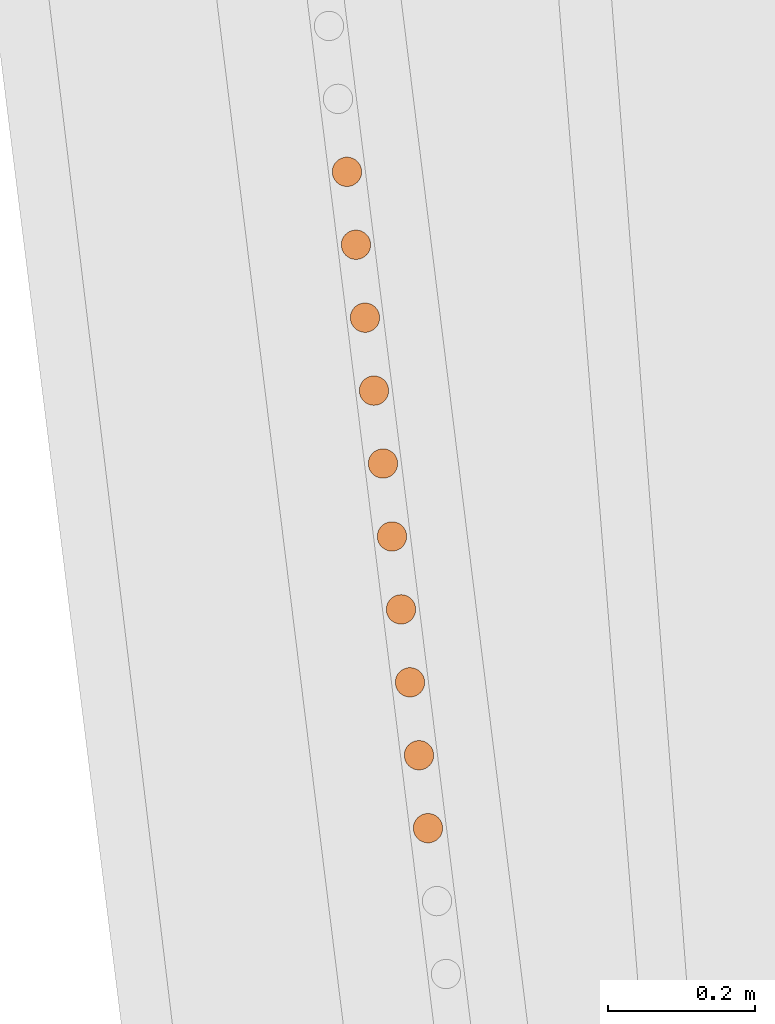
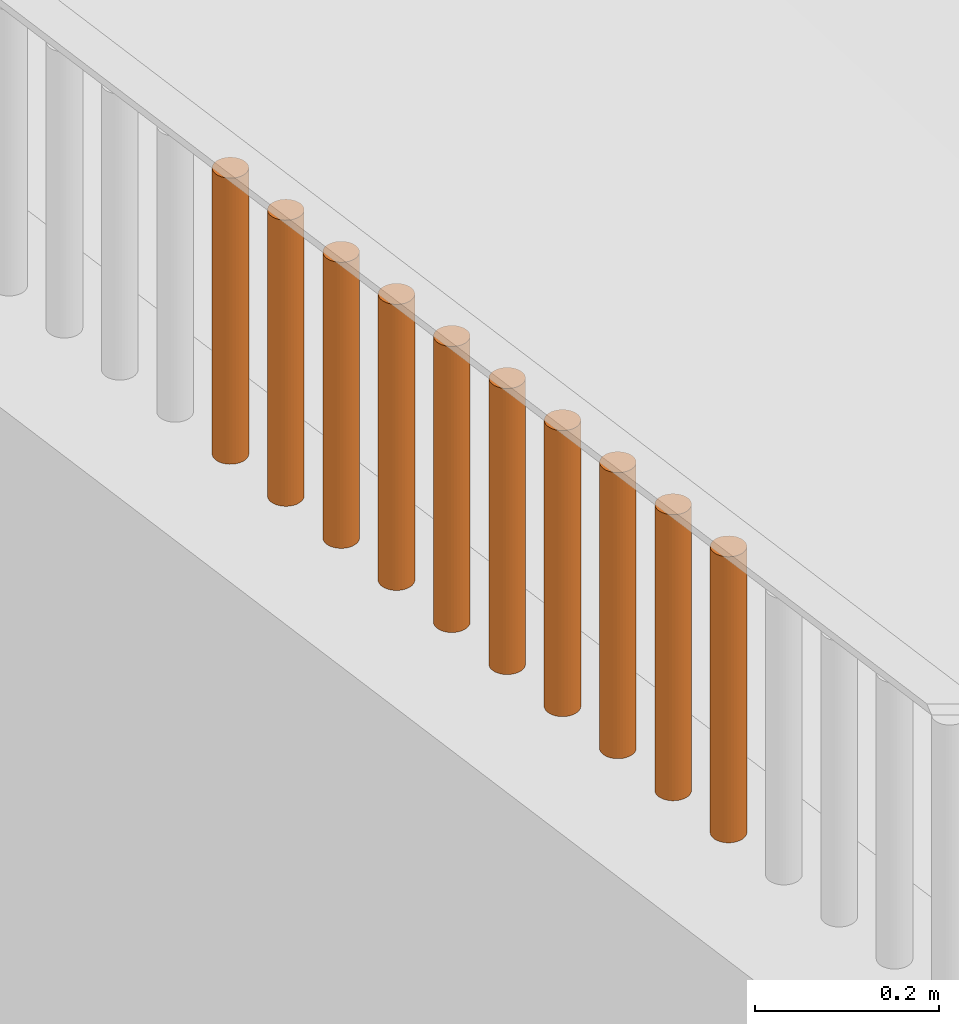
# One storey, part 115 of 1809: 10 proxies, 1 element without a shape of its own.
"""IFC2X3 building model written with IfcOpenShell, lengths in millimetres."""

from ifc_helpers import new_model, entity, si_unit, converted_unit, derived_unit, money_unit, direction, frame, origin_with_axes, place, context, subcontext, project, spatial, faceted_brep, source, transform, mapped, material, type_object, element, aggregate, save


model = new_model("IFC2X3")

# Units and contexts
model_context = context("Model", 3, precision=0.01, world=origin_with_axes(), true_north=direction((0.0, 1.0)))
body_context = subcontext(model_context, "Body", "Model", "MODEL_VIEW")
ifc_project = project(units=[si_unit("LENGTHUNIT", "METRE", prefix="MILLI"), si_unit("AREAUNIT", "SQUARE_METRE"), si_unit("VOLUMEUNIT", "CUBIC_METRE"), converted_unit("PLANEANGLEUNIT", "DEGREE", entity("IfcPlaneAngleMeasure", 0.0174532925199), si_unit("PLANEANGLEUNIT", "RADIAN"), dimensions=[0, 0, 0, 0, 0, 0, 0]), si_unit("SOLIDANGLEUNIT", "STERADIAN"), money_unit("EUR"), converted_unit("TIMEUNIT", "Year", entity("IfcTimeMeasure", 31556926.0), si_unit("TIMEUNIT", "SECOND"), dimensions=[0, 0, 1, 0, 0, 0, 0]), si_unit("MASSUNIT", "GRAM", prefix="KILO"), si_unit("THERMODYNAMICTEMPERATUREUNIT", "DEGREE_CELSIUS"), si_unit("LUMINOUSINTENSITYUNIT", "LUMEN"), si_unit("ENERGYUNIT", "JOULE", prefix="MEGA"), derived_unit("THERMALCONDUCTANCEUNIT", [(si_unit("POWERUNIT", "WATT"), 1), (si_unit("LENGTHUNIT", "METRE"), -1), (si_unit("THERMODYNAMICTEMPERATUREUNIT", "KELVIN"), -1)]), derived_unit("SPECIFICHEATCAPACITYUNIT", [(si_unit("ENERGYUNIT", "JOULE"), 1), (si_unit("MASSUNIT", "GRAM", prefix="KILO"), -1), (si_unit("THERMODYNAMICTEMPERATUREUNIT", "KELVIN"), -1)]), derived_unit("MASSDENSITYUNIT", [(si_unit("MASSUNIT", "GRAM", prefix="KILO"), 1), (si_unit("VOLUMEUNIT", "CUBIC_METRE"), -1)])], contexts=[model_context])

# Site, building, storey
site_placement = place(None, origin_with_axes())
site = spatial("IfcSite", under=ifc_project, at=site_placement, Name="Politse- ja Piirivalveameti ning Päästeameti ühishoone", CompositionType="ELEMENT")
building_placement = place(site_placement, origin_with_axes())
building = spatial("IfcBuilding", under=site, at=building_placement, Name="Politse- ja Piirivalveameti ning Päästeameti ühishoone", CompositionType="ELEMENT")
storey_placement = place(building_placement, origin_with_axes())
storey = spatial("IfcBuildingStorey", under=building, at=storey_placement, Name="Esimene korrus", CompositionType="ELEMENT", Elevation=0.0)

# Proxies
building_element_proxy_type_1 = type_object("IfcBuildingElementProxyType", Name="Railing Type", PredefinedType="NOTDEFINED")
proxy_1_placement = place(storey_placement, frame((-18956.5522504, -53688.4757966, 2100.0), z_axis=(0.0, 0.0, 1.0), x_axis=(1.0, 0.0, 0.0)))
proxy_1 = element("IfcBuildingElementProxy", 1, at=proxy_1_placement, inside=storey, type_object=building_element_proxy_type_1, Name="PIIRDEAED")
ifc_material = material(Name="ET-06_Teras - Konstruktsioon")
building_element_proxy_type_2 = type_object("IfcBuildingElementProxyType", Name="IfcBuildingElementProxy", PredefinedType="NOTDEFINED")
shared_shape_1 = source(origin_with_axes(), body_context, "Body", "Brep", [
    faceted_brep([(0.0, -20.0, 0.0), (3.47296355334, -19.6961550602, 0.0), (3.47296355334, -19.6961550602, 380.000012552), (0.0, -20.0, 380.000012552), (-3.47296355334, -19.6961550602, 0.0), (-6.84040286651, -18.7938524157, 0.0), (-10.0, -17.3205080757, 0.0), (-12.8557521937, -15.3208888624, 0.0), (-15.3208888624, -12.8557521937, 0.0), (-17.3205080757, -10.0, 0.0), (-18.7938524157, -6.84040286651, 0.0), (-19.6961550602, -3.47296355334, 0.0), (-20.0, 0.0, 0.0), (-19.6961550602, 3.47296355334, 0.0), (-18.7938524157, 6.84040286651, 0.0), (-17.3205080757, 10.0, 0.0), (-15.3208888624, 12.8557521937, 0.0), (-12.8557521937, 15.3208888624, 0.0), (-10.0, 17.3205080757, 0.0), (-6.84040286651, 18.7938524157, 0.0), (-3.47296355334, 19.6961550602, 0.0), (0.0, 20.0, 0.0), (3.47296355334, 19.6961550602, 0.0), (6.84040286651, 18.7938524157, 0.0), (10.0, 17.3205080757, 0.0), (12.8557521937, 15.3208888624, 0.0), (15.3208888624, 12.8557521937, 0.0), (17.3205080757, 10.0, 0.0), (18.7938524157, 6.84040286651, 0.0), (19.6961550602, 3.47296355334, 0.0), (20.0, 0.0, 0.0), (19.6961550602, -3.47296355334, 0.0), (18.7938524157, -6.84040286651, 0.0), (17.3205080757, -10.0, 0.0), (15.3208888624, -12.8557521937, 0.0), (12.8557521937, -15.3208888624, 0.0), (10.0, -17.3205080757, 0.0), (6.84040286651, -18.7938524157, 0.0), (6.84040286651, -18.7938524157, 380.000012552), (10.0, -17.3205080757, 380.000012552), (12.8557521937, -15.3208888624, 380.000012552), (15.3208888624, -12.8557521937, 380.000012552), (17.3205080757, -10.0, 380.000012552), (18.7938524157, -6.84040286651, 380.000012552), (19.6961550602, -3.47296355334, 380.000012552), (20.0, 0.0, 380.000012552), (19.6961550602, 3.47296355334, 380.000012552), (18.7938524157, 6.84040286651, 380.000012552), (17.3205080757, 10.0, 380.000012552), (15.3208888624, 12.8557521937, 380.000012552), (12.8557521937, 15.3208888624, 380.000012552), (10.0, 17.3205080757, 380.000012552), (6.84040286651, 18.7938524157, 380.000012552), (3.47296355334, 19.6961550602, 380.000012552), (0.0, 20.0, 380.000012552), (-3.47296355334, 19.6961550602, 380.000012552), (-6.84040286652, 18.7938524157, 380.000012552), (-10.0, 17.3205080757, 380.000012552), (-12.8557521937, 15.3208888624, 380.000012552), (-15.3208888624, 12.8557521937, 380.000012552), (-17.3205080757, 10.0, 380.000012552), (-18.7938524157, 6.84040286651, 380.000012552), (-19.6961550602, 3.47296355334, 380.000012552), (-20.0, 0.0, 380.000012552), (-19.6961550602, -3.47296355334, 380.000012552), (-18.7938524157, -6.84040286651, 380.000012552), (-17.3205080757, -10.0, 380.000012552), (-15.3208888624, -12.8557521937, 380.000012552), (-12.8557521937, -15.3208888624, 380.000012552), (-10.0, -17.3205080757, 380.000012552), (-6.84040286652, -18.7938524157, 380.000012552), (-3.47296355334, -19.6961550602, 380.000012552)], [[[0, 1, 2, 3]], [[0, 4, 5, 6, 7, 8, 9, 10, 11, 12, 13, 14, 15, 16, 17, 18, 19, 20, 21, 22, 23, 24, 25, 26, 27, 28, 29, 30, 31, 32, 33, 34, 35, 36, 37, 1]], [[1, 37, 38, 2]], [[3, 2, 38, 39, 40, 41, 42, 43, 44, 45, 46, 47, 48, 49, 50, 51, 52, 53, 54, 55, 56, 57, 58, 59, 60, 61, 62, 63, 64, 65, 66, 67, 68, 69, 70, 71]], [[4, 0, 3, 71]], [[5, 4, 71, 70]], [[6, 5, 70, 69]], [[7, 6, 69, 68]], [[8, 7, 68, 67]], [[9, 8, 67, 66]], [[10, 9, 66, 65]], [[11, 10, 65, 64]], [[12, 11, 64, 63]], [[13, 12, 63, 62]], [[14, 13, 62, 61]], [[15, 14, 61, 60]], [[16, 15, 60, 59]], [[17, 16, 59, 58]], [[18, 17, 58, 57]], [[19, 18, 57, 56]], [[20, 19, 56, 55]], [[21, 20, 55, 54]], [[22, 21, 54, 53]], [[23, 22, 53, 52]], [[24, 23, 52, 51]], [[25, 24, 51, 50]], [[26, 25, 50, 49]], [[27, 26, 49, 48]], [[28, 27, 48, 47]], [[29, 28, 47, 46]], [[30, 29, 46, 45]], [[31, 30, 45, 44]], [[32, 31, 44, 43]], [[33, 32, 43, 42]], [[34, 33, 42, 41]], [[35, 34, 41, 40]], [[36, 35, 40, 39]], [[37, 36, 39, 38]]]),
])
proxy_2_placement = place(proxy_1_placement, frame((-2089.39874357, 16093.2870675, -1.25517001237e-05), z_axis=(0.0, 0.0, 1.0), x_axis=(1.0, 0.0, 0.0)))
proxy_2 = element("IfcBuildingElementProxy", 2, at=proxy_2_placement, type_object=building_element_proxy_type_2, material=ifc_material, Name="BALUSTER - 001", context=body_context, shape_type="MappedRepresentation", body=[
    mapped(shared_shape_1, transform((0.0, 0.0, 0.0), x_axis=(0.992468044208, 0.122503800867, 0.0), y_axis=(-0.122503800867, 0.992468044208, 0.0), z_axis=(0.0, 0.0, 1.0))),
])
proxy_3_placement = place(proxy_1_placement, frame((-2126.14185831, 16390.9624617, -1.25517001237e-05), z_axis=(0.0, 0.0, 1.0), x_axis=(1.0, 0.0, 0.0)))
proxy_3 = element("IfcBuildingElementProxy", 3, at=proxy_3_placement, type_object=building_element_proxy_type_2, material=ifc_material, Name="BALUSTER - 001", context=body_context, shape_type="MappedRepresentation", body=[
    mapped(shared_shape_1, transform((0.0, 0.0, 0.0), x_axis=(0.992468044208, 0.122503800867, 0.0), y_axis=(-0.122503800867, 0.992468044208, 0.0), z_axis=(0.0, 0.0, 1.0))),
])
proxy_4_placement = place(proxy_1_placement, frame((-2150.63726813, 16589.4127246, -1.25517001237e-05), z_axis=(0.0, 0.0, 1.0), x_axis=(1.0, 0.0, 0.0)))
proxy_4 = element("IfcBuildingElementProxy", 4, at=proxy_4_placement, type_object=building_element_proxy_type_2, material=ifc_material, Name="BALUSTER - 001", context=body_context, shape_type="MappedRepresentation", body=[
    mapped(shared_shape_1, transform((0.0, 0.0, 0.0), x_axis=(0.992468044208, 0.122503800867, 0.0), y_axis=(-0.122503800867, 0.992468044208, 0.0), z_axis=(0.0, 0.0, 1.0))),
])
shared_shape_2 = source(origin_with_axes(), body_context, "Body", "Brep", [
    faceted_brep([(0.0, -20.0, 0.0), (3.47296355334, -19.6961550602, 0.0), (3.47296355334, -19.6961550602, 380.000012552), (0.0, -20.0, 380.000012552), (-3.47296355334, -19.6961550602, 0.0), (-6.84040286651, -18.7938524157, 0.0), (-10.0, -17.3205080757, 0.0), (-12.8557521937, -15.3208888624, 0.0), (-15.3208888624, -12.8557521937, 0.0), (-17.3205080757, -10.0, 0.0), (-18.7938524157, -6.84040286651, 0.0), (-19.6961550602, -3.47296355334, 0.0), (-20.0, 0.0, 0.0), (-19.6961550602, 3.47296355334, 0.0), (-18.7938524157, 6.84040286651, 0.0), (-17.3205080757, 10.0, 0.0), (-15.3208888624, 12.8557521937, 0.0), (-12.8557521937, 15.3208888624, 0.0), (-10.0, 17.3205080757, 0.0), (-6.84040286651, 18.7938524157, 0.0), (-3.47296355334, 19.6961550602, 0.0), (0.0, 20.0, 0.0), (3.47296355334, 19.6961550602, 0.0), (6.84040286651, 18.7938524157, 0.0), (10.0, 17.3205080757, 0.0), (12.8557521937, 15.3208888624, 0.0), (15.3208888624, 12.8557521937, 0.0), (17.3205080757, 10.0, 0.0), (18.7938524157, 6.84040286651, 0.0), (19.6961550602, 3.47296355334, 0.0), (20.0, 0.0, 0.0), (19.6961550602, -3.47296355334, 0.0), (18.7938524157, -6.84040286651, 0.0), (17.3205080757, -10.0, 0.0), (15.3208888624, -12.8557521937, 0.0), (12.8557521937, -15.3208888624, 0.0), (10.0, -17.3205080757, 0.0), (6.84040286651, -18.7938524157, 0.0), (6.84040286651, -18.7938524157, 380.000012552), (10.0, -17.3205080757, 380.000012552), (12.8557521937, -15.3208888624, 380.000012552), (15.3208888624, -12.8557521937, 380.000012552), (17.3205080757, -10.0, 380.000012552), (18.7938524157, -6.84040286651, 380.000012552), (19.6961550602, -3.47296355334, 380.000012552), (20.0, 0.0, 380.000012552), (19.6961550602, 3.47296355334, 380.000012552), (18.7938524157, 6.84040286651, 380.000012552), (17.3205080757, 10.0, 380.000012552), (15.3208888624, 12.8557521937, 380.000012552), (12.8557521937, 15.3208888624, 380.000012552), (10.0, 17.3205080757, 380.000012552), (6.84040286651, 18.7938524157, 380.000012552), (3.47296355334, 19.6961550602, 380.000012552), (0.0, 20.0, 380.000012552), (-3.47296355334, 19.6961550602, 380.000012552), (-6.84040286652, 18.7938524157, 380.000012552), (-10.0, 17.3205080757, 380.000012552), (-12.8557521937, 15.3208888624, 380.000012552), (-15.3208888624, 12.8557521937, 380.000012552), (-17.3205080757, 10.0, 380.000012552), (-18.7938524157, 6.84040286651, 380.000012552), (-19.6961550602, 3.47296355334, 380.000012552), (-20.0, 0.0, 380.000012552), (-19.6961550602, -3.47296355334, 380.000012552), (-18.7938524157, -6.84040286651, 380.000012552), (-17.3205080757, -10.0, 380.000012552), (-15.3208888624, -12.8557521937, 380.000012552), (-12.8557521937, -15.3208888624, 380.000012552), (-10.0, -17.3205080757, 380.000012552), (-6.84040286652, -18.7938524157, 380.000012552), (-3.47296355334, -19.6961550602, 380.000012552)], [[[0, 1, 2, 3]], [[0, 4, 5, 6, 7, 8, 9, 10, 11, 12, 13, 14, 15, 16, 17, 18, 19, 20, 21, 22, 23, 24, 25, 26, 27, 28, 29, 30, 31, 32, 33, 34, 35, 36, 37, 1]], [[1, 37, 38, 2]], [[3, 2, 38, 39, 40, 41, 42, 43, 44, 45, 46, 47, 48, 49, 50, 51, 52, 53, 54, 55, 56, 57, 58, 59, 60, 61, 62, 63, 64, 65, 66, 67, 68, 69, 70, 71]], [[4, 0, 3, 71]], [[5, 4, 71, 70]], [[6, 5, 70, 69]], [[7, 6, 69, 68]], [[8, 7, 68, 67]], [[9, 8, 67, 66]], [[10, 9, 66, 65]], [[11, 10, 65, 64]], [[12, 11, 64, 63]], [[13, 12, 63, 62]], [[14, 13, 62, 61]], [[15, 14, 61, 60]], [[16, 15, 60, 59]], [[17, 16, 59, 58]], [[18, 17, 58, 57]], [[19, 18, 57, 56]], [[20, 19, 56, 55]], [[21, 20, 55, 54]], [[22, 21, 54, 53]], [[23, 22, 53, 52]], [[24, 23, 52, 51]], [[25, 24, 51, 50]], [[26, 25, 50, 49]], [[27, 26, 49, 48]], [[28, 27, 48, 47]], [[29, 28, 47, 46]], [[30, 29, 46, 45]], [[31, 30, 45, 44]], [[32, 31, 44, 43]], [[33, 32, 43, 42]], [[34, 33, 42, 41]], [[35, 34, 41, 40]], [[36, 35, 40, 39]], [[37, 36, 39, 38]]]),
])
proxy_5_placement = place(proxy_1_placement, frame((-2077.15103866, 15994.061936, -1.25517001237e-05), z_axis=(0.0, 0.0, 1.0), x_axis=(1.0, 0.0, 0.0)))
proxy_5 = element("IfcBuildingElementProxy", 5, at=proxy_5_placement, type_object=building_element_proxy_type_2, material=ifc_material, Name="BALUSTER - 001", context=body_context, shape_type="MappedRepresentation", body=[
    mapped(shared_shape_2, transform((0.0, 0.0, 0.0), x_axis=(0.992468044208, 0.122503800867, 0.0), y_axis=(-0.122503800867, 0.992468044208, 0.0), z_axis=(0.0, 0.0, 1.0))),
])
proxy_6_placement = place(proxy_1_placement, frame((-2138.38956322, 16490.1875932, -1.25517001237e-05), z_axis=(0.0, 0.0, 1.0), x_axis=(1.0, 0.0, 0.0)))
proxy_6 = element("IfcBuildingElementProxy", 6, at=proxy_6_placement, type_object=building_element_proxy_type_2, material=ifc_material, Name="BALUSTER - 001", context=body_context, shape_type="MappedRepresentation", body=[
    mapped(shared_shape_2, transform((0.0, 0.0, 0.0), x_axis=(0.992468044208, 0.122503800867, 0.0), y_axis=(-0.122503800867, 0.992468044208, 0.0), z_axis=(0.0, 0.0, 1.0))),
])
proxy_7_placement = place(proxy_1_placement, frame((-2175.13267796, 16787.8629874, -1.25517001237e-05), z_axis=(0.0, 0.0, 1.0), x_axis=(1.0, 0.0, 0.0)))
proxy_7 = element("IfcBuildingElementProxy", 7, at=proxy_7_placement, type_object=building_element_proxy_type_2, material=ifc_material, Name="BALUSTER - 001", context=body_context, shape_type="MappedRepresentation", body=[
    mapped(shared_shape_2, transform((0.0, 0.0, 0.0), x_axis=(0.992468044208, 0.122503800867, 0.0), y_axis=(-0.122503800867, 0.992468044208, 0.0), z_axis=(0.0, 0.0, 1.0))),
])
shared_shape_3 = source(origin_with_axes(), body_context, "Body", "Brep", [
    faceted_brep([(0.0, -20.0, 0.0), (3.47296355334, -19.6961550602, 0.0), (3.47296355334, -19.6961550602, 380.000012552), (0.0, -20.0, 380.000012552), (-3.47296355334, -19.6961550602, 0.0), (-6.84040286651, -18.7938524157, 0.0), (-10.0, -17.3205080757, 0.0), (-12.8557521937, -15.3208888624, 0.0), (-15.3208888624, -12.8557521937, 0.0), (-17.3205080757, -10.0, 0.0), (-18.7938524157, -6.84040286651, 0.0), (-19.6961550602, -3.47296355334, 0.0), (-20.0, 0.0, 0.0), (-19.6961550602, 3.47296355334, 0.0), (-18.7938524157, 6.84040286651, 0.0), (-17.3205080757, 10.0, 0.0), (-15.3208888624, 12.8557521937, 0.0), (-12.8557521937, 15.3208888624, 0.0), (-10.0, 17.3205080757, 0.0), (-6.84040286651, 18.7938524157, 0.0), (-3.47296355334, 19.6961550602, 0.0), (0.0, 20.0, 0.0), (3.47296355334, 19.6961550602, 0.0), (6.84040286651, 18.7938524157, 0.0), (10.0, 17.3205080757, 0.0), (12.8557521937, 15.3208888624, 0.0), (15.3208888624, 12.8557521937, 0.0), (17.3205080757, 10.0, 0.0), (18.7938524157, 6.84040286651, 0.0), (19.6961550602, 3.47296355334, 0.0), (20.0, 0.0, 0.0), (19.6961550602, -3.47296355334, 0.0), (18.7938524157, -6.84040286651, 0.0), (17.3205080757, -10.0, 0.0), (15.3208888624, -12.8557521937, 0.0), (12.8557521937, -15.3208888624, 0.0), (10.0, -17.3205080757, 0.0), (6.84040286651, -18.7938524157, 0.0), (6.84040286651, -18.7938524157, 380.000012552), (10.0, -17.3205080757, 380.000012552), (12.8557521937, -15.3208888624, 380.000012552), (15.3208888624, -12.8557521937, 380.000012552), (17.3205080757, -9.99999999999, 380.000012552), (18.7938524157, -6.84040286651, 380.000012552), (19.6961550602, -3.47296355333, 380.000012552), (20.0, 0.0, 380.000012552), (19.6961550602, 3.47296355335, 380.000012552), (18.7938524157, 6.84040286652, 380.000012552), (17.3205080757, 10.0, 380.000012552), (15.3208888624, 12.8557521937, 380.000012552), (12.8557521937, 15.3208888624, 380.000012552), (10.0, 17.3205080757, 380.000012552), (6.84040286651, 18.7938524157, 380.000012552), (3.47296355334, 19.6961550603, 380.000012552), (0.0, 20.0, 380.000012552), (-3.47296355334, 19.6961550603, 380.000012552), (-6.84040286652, 18.7938524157, 380.000012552), (-10.0, 17.3205080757, 380.000012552), (-12.8557521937, 15.3208888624, 380.000012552), (-15.3208888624, 12.8557521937, 380.000012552), (-17.3205080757, 10.0, 380.000012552), (-18.7938524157, 6.84040286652, 380.000012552), (-19.6961550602, 3.47296355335, 380.000012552), (-20.0, 0.0, 380.000012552), (-19.6961550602, -3.47296355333, 380.000012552), (-18.7938524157, -6.84040286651, 380.000012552), (-17.3205080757, -9.99999999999, 380.000012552), (-15.3208888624, -12.8557521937, 380.000012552), (-12.8557521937, -15.3208888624, 380.000012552), (-10.0, -17.3205080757, 380.000012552), (-6.84040286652, -18.7938524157, 380.000012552), (-3.47296355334, -19.6961550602, 380.000012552)], [[[0, 1, 2, 3]], [[0, 4, 5, 6, 7, 8, 9, 10, 11, 12, 13, 14, 15, 16, 17, 18, 19, 20, 21, 22, 23, 24, 25, 26, 27, 28, 29, 30, 31, 32, 33, 34, 35, 36, 37, 1]], [[1, 37, 38, 2]], [[3, 2, 38, 39, 40, 41, 42, 43, 44, 45, 46, 47, 48, 49, 50, 51, 52, 53, 54, 55, 56, 57, 58, 59, 60, 61, 62, 63, 64, 65, 66, 67, 68, 69, 70, 71]], [[4, 0, 3, 71]], [[5, 4, 71, 70]], [[6, 5, 70, 69]], [[7, 6, 69, 68]], [[8, 7, 68, 67]], [[9, 8, 67, 66]], [[10, 9, 66, 65]], [[11, 10, 65, 64]], [[12, 11, 64, 63]], [[13, 12, 63, 62]], [[14, 13, 62, 61]], [[15, 14, 61, 60]], [[16, 15, 60, 59]], [[17, 16, 59, 58]], [[18, 17, 58, 57]], [[19, 18, 57, 56]], [[20, 19, 56, 55]], [[21, 20, 55, 54]], [[22, 21, 54, 53]], [[23, 22, 53, 52]], [[24, 23, 52, 51]], [[25, 24, 51, 50]], [[26, 25, 50, 49]], [[27, 26, 49, 48]], [[28, 27, 48, 47]], [[29, 28, 47, 46]], [[30, 29, 46, 45]], [[31, 30, 45, 44]], [[32, 31, 44, 43]], [[33, 32, 43, 42]], [[34, 33, 42, 41]], [[35, 34, 41, 40]], [[36, 35, 40, 39]], [[37, 36, 39, 38]]]),
])
proxy_8_placement = place(proxy_1_placement, frame((-2113.8941534, 16291.7373303, -1.25517001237e-05), z_axis=(0.0, 0.0, 1.0), x_axis=(1.0, 0.0, 0.0)))
proxy_8 = element("IfcBuildingElementProxy", 8, at=proxy_8_placement, type_object=building_element_proxy_type_2, material=ifc_material, Name="BALUSTER - 001", context=body_context, shape_type="MappedRepresentation", body=[
    mapped(shared_shape_3, transform((0.0, 0.0, 0.0), x_axis=(0.992468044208, 0.122503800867, 0.0), y_axis=(-0.122503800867, 0.992468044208, 0.0), z_axis=(0.0, 0.0, 1.0))),
])
shared_shape_4 = source(origin_with_axes(), body_context, "Body", "Brep", [
    faceted_brep([(0.0, -20.0, 0.0), (3.47296355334, -19.6961550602, 0.0), (3.47296355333, -19.6961550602, 380.000012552), (0.0, -20.0, 380.000012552), (-3.47296355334, -19.6961550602, 0.0), (-6.84040286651, -18.7938524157, 0.0), (-10.0, -17.3205080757, 0.0), (-12.8557521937, -15.3208888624, 0.0), (-15.3208888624, -12.8557521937, 0.0), (-17.3205080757, -10.0, 0.0), (-18.7938524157, -6.84040286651, 0.0), (-19.6961550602, -3.47296355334, 0.0), (-20.0, 0.0, 0.0), (-19.6961550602, 3.47296355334, 0.0), (-18.7938524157, 6.84040286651, 0.0), (-17.3205080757, 10.0, 0.0), (-15.3208888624, 12.8557521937, 0.0), (-12.8557521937, 15.3208888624, 0.0), (-10.0, 17.3205080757, 0.0), (-6.84040286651, 18.7938524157, 0.0), (-3.47296355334, 19.6961550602, 0.0), (0.0, 20.0, 0.0), (3.47296355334, 19.6961550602, 0.0), (6.84040286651, 18.7938524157, 0.0), (10.0, 17.3205080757, 0.0), (12.8557521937, 15.3208888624, 0.0), (15.3208888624, 12.8557521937, 0.0), (17.3205080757, 10.0, 0.0), (18.7938524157, 6.84040286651, 0.0), (19.6961550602, 3.47296355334, 0.0), (20.0, 0.0, 0.0), (19.6961550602, -3.47296355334, 0.0), (18.7938524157, -6.84040286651, 0.0), (17.3205080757, -10.0, 0.0), (15.3208888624, -12.8557521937, 0.0), (12.8557521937, -15.3208888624, 0.0), (10.0, -17.3205080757, 0.0), (6.84040286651, -18.7938524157, 0.0), (6.84040286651, -18.7938524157, 380.000012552), (9.99999999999, -17.3205080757, 380.000012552), (12.8557521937, -15.3208888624, 380.000012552), (15.3208888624, -12.8557521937, 380.000012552), (17.3205080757, -10.0, 380.000012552), (18.7938524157, -6.84040286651, 380.000012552), (19.6961550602, -3.47296355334, 380.000012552), (20.0, 0.0, 380.000012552), (19.6961550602, 3.47296355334, 380.000012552), (18.7938524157, 6.84040286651, 380.000012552), (17.3205080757, 10.0, 380.000012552), (15.3208888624, 12.8557521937, 380.000012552), (12.8557521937, 15.3208888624, 380.000012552), (9.99999999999, 17.3205080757, 380.000012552), (6.84040286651, 18.7938524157, 380.000012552), (3.47296355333, 19.6961550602, 380.000012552), (0.0, 20.0, 380.000012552), (-3.47296355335, 19.6961550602, 380.000012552), (-6.84040286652, 18.7938524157, 380.000012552), (-10.0, 17.3205080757, 380.000012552), (-12.8557521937, 15.3208888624, 380.000012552), (-15.3208888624, 12.8557521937, 380.000012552), (-17.3205080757, 10.0, 380.000012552), (-18.7938524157, 6.84040286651, 380.000012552), (-19.6961550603, 3.47296355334, 380.000012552), (-20.0, 0.0, 380.000012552), (-19.6961550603, -3.47296355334, 380.000012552), (-18.7938524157, -6.84040286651, 380.000012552), (-17.3205080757, -10.0, 380.000012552), (-15.3208888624, -12.8557521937, 380.000012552), (-12.8557521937, -15.3208888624, 380.000012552), (-10.0, -17.3205080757, 380.000012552), (-6.84040286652, -18.7938524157, 380.000012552), (-3.47296355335, -19.6961550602, 380.000012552)], [[[0, 1, 2, 3]], [[0, 4, 5, 6, 7, 8, 9, 10, 11, 12, 13, 14, 15, 16, 17, 18, 19, 20, 21, 22, 23, 24, 25, 26, 27, 28, 29, 30, 31, 32, 33, 34, 35, 36, 37, 1]], [[1, 37, 38, 2]], [[3, 2, 38, 39, 40, 41, 42, 43, 44, 45, 46, 47, 48, 49, 50, 51, 52, 53, 54, 55, 56, 57, 58, 59, 60, 61, 62, 63, 64, 65, 66, 67, 68, 69, 70, 71]], [[4, 0, 3, 71]], [[5, 4, 71, 70]], [[6, 5, 70, 69]], [[7, 6, 69, 68]], [[8, 7, 68, 67]], [[9, 8, 67, 66]], [[10, 9, 66, 65]], [[11, 10, 65, 64]], [[12, 11, 64, 63]], [[13, 12, 63, 62]], [[14, 13, 62, 61]], [[15, 14, 61, 60]], [[16, 15, 60, 59]], [[17, 16, 59, 58]], [[18, 17, 58, 57]], [[19, 18, 57, 56]], [[20, 19, 56, 55]], [[21, 20, 55, 54]], [[22, 21, 54, 53]], [[23, 22, 53, 52]], [[24, 23, 52, 51]], [[25, 24, 51, 50]], [[26, 25, 50, 49]], [[27, 26, 49, 48]], [[28, 27, 48, 47]], [[29, 28, 47, 46]], [[30, 29, 46, 45]], [[31, 30, 45, 44]], [[32, 31, 44, 43]], [[33, 32, 43, 42]], [[34, 33, 42, 41]], [[35, 34, 41, 40]], [[36, 35, 40, 39]], [[37, 36, 39, 38]]]),
])
proxy_9_placement = place(proxy_1_placement, frame((-2064.90333374, 15894.8368046, -1.25517001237e-05), z_axis=(0.0, 0.0, 1.0), x_axis=(1.0, 0.0, 0.0)))
proxy_9 = element("IfcBuildingElementProxy", 9, at=proxy_9_placement, type_object=building_element_proxy_type_2, material=ifc_material, Name="BALUSTER - 001", context=body_context, shape_type="MappedRepresentation", body=[
    mapped(shared_shape_4, transform((0.0, 0.0, 0.0), x_axis=(0.992468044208, 0.122503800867, 0.0), y_axis=(-0.122503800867, 0.992468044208, 0.0), z_axis=(0.0, 0.0, 1.0))),
])
shared_shape_5 = source(origin_with_axes(), body_context, "Body", "Brep", [
    faceted_brep([(0.0, -20.0, 0.0), (3.47296355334, -19.6961550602, 0.0), (3.47296355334, -19.6961550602, 380.000012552), (0.0, -20.0, 380.000012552), (-3.47296355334, -19.6961550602, 0.0), (-6.84040286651, -18.7938524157, 0.0), (-10.0, -17.3205080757, 0.0), (-12.8557521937, -15.3208888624, 0.0), (-15.3208888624, -12.8557521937, 0.0), (-17.3205080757, -10.0, 0.0), (-18.7938524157, -6.84040286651, 0.0), (-19.6961550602, -3.47296355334, 0.0), (-20.0, 0.0, 0.0), (-19.6961550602, 3.47296355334, 0.0), (-18.7938524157, 6.84040286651, 0.0), (-17.3205080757, 10.0, 0.0), (-15.3208888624, 12.8557521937, 0.0), (-12.8557521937, 15.3208888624, 0.0), (-10.0, 17.3205080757, 0.0), (-6.84040286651, 18.7938524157, 0.0), (-3.47296355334, 19.6961550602, 0.0), (0.0, 20.0, 0.0), (3.47296355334, 19.6961550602, 0.0), (6.84040286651, 18.7938524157, 0.0), (10.0, 17.3205080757, 0.0), (12.8557521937, 15.3208888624, 0.0), (15.3208888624, 12.8557521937, 0.0), (17.3205080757, 10.0, 0.0), (18.7938524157, 6.84040286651, 0.0), (19.6961550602, 3.47296355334, 0.0), (20.0, 0.0, 0.0), (19.6961550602, -3.47296355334, 0.0), (18.7938524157, -6.84040286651, 0.0), (17.3205080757, -10.0, 0.0), (15.3208888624, -12.8557521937, 0.0), (12.8557521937, -15.3208888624, 0.0), (10.0, -17.3205080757, 0.0), (6.84040286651, -18.7938524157, 0.0), (6.84040286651, -18.7938524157, 380.000012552), (10.0, -17.3205080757, 380.000012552), (12.8557521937, -15.3208888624, 380.000012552), (15.3208888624, -12.8557521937, 380.000012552), (17.3205080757, -10.0, 380.000012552), (18.7938524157, -6.84040286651, 380.000012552), (19.6961550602, -3.47296355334, 380.000012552), (20.0, 0.0, 380.000012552), (19.6961550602, 3.47296355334, 380.000012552), (18.7938524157, 6.84040286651, 380.000012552), (17.3205080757, 10.0, 380.000012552), (15.3208888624, 12.8557521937, 380.000012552), (12.8557521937, 15.3208888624, 380.000012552), (10.0, 17.3205080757, 380.000012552), (6.84040286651, 18.7938524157, 380.000012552), (3.47296355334, 19.6961550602, 380.000012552), (0.0, 20.0, 380.000012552), (-3.47296355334, 19.6961550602, 380.000012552), (-6.84040286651, 18.7938524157, 380.000012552), (-10.0, 17.3205080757, 380.000012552), (-12.8557521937, 15.3208888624, 380.000012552), (-15.3208888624, 12.8557521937, 380.000012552), (-17.3205080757, 10.0, 380.000012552), (-18.7938524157, 6.84040286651, 380.000012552), (-19.6961550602, 3.47296355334, 380.000012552), (-20.0, 0.0, 380.000012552), (-19.6961550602, -3.47296355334, 380.000012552), (-18.7938524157, -6.84040286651, 380.000012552), (-17.3205080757, -10.0, 380.000012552), (-15.3208888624, -12.8557521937, 380.000012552), (-12.8557521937, -15.3208888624, 380.000012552), (-10.0, -17.3205080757, 380.000012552), (-6.84040286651, -18.7938524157, 380.000012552), (-3.47296355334, -19.6961550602, 380.000012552)], [[[0, 1, 2, 3]], [[0, 4, 5, 6, 7, 8, 9, 10, 11, 12, 13, 14, 15, 16, 17, 18, 19, 20, 21, 22, 23, 24, 25, 26, 27, 28, 29, 30, 31, 32, 33, 34, 35, 36, 37, 1]], [[1, 37, 38, 2]], [[3, 2, 38, 39, 40, 41, 42, 43, 44, 45, 46, 47, 48, 49, 50, 51, 52, 53, 54, 55, 56, 57, 58, 59, 60, 61, 62, 63, 64, 65, 66, 67, 68, 69, 70, 71]], [[4, 0, 3, 71]], [[5, 4, 71, 70]], [[6, 5, 70, 69]], [[7, 6, 69, 68]], [[8, 7, 68, 67]], [[9, 8, 67, 66]], [[10, 9, 66, 65]], [[11, 10, 65, 64]], [[12, 11, 64, 63]], [[13, 12, 63, 62]], [[14, 13, 62, 61]], [[15, 14, 61, 60]], [[16, 15, 60, 59]], [[17, 16, 59, 58]], [[18, 17, 58, 57]], [[19, 18, 57, 56]], [[20, 19, 56, 55]], [[21, 20, 55, 54]], [[22, 21, 54, 53]], [[23, 22, 53, 52]], [[24, 23, 52, 51]], [[25, 24, 51, 50]], [[26, 25, 50, 49]], [[27, 26, 49, 48]], [[28, 27, 48, 47]], [[29, 28, 47, 46]], [[30, 29, 46, 45]], [[31, 30, 45, 44]], [[32, 31, 44, 43]], [[33, 32, 43, 42]], [[34, 33, 42, 41]], [[35, 34, 41, 40]], [[36, 35, 40, 39]], [[37, 36, 39, 38]]]),
])
proxy_10_placement = place(proxy_1_placement, frame((-2101.64644848, 16192.5121989, -1.25517001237e-05), z_axis=(0.0, 0.0, 1.0), x_axis=(1.0, 0.0, 0.0)))
proxy_10 = element("IfcBuildingElementProxy", 10, at=proxy_10_placement, type_object=building_element_proxy_type_2, material=ifc_material, Name="BALUSTER - 001", context=body_context, shape_type="MappedRepresentation", body=[
    mapped(shared_shape_5, transform((0.0, 0.0, 0.0), x_axis=(0.992468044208, 0.122503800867, 0.0), y_axis=(-0.122503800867, 0.992468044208, 0.0), z_axis=(0.0, 0.0, 1.0))),
])
proxy_11_placement = place(proxy_1_placement, frame((-2162.88497305, 16688.637856, -1.25517001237e-05), z_axis=(0.0, 0.0, 1.0), x_axis=(1.0, 0.0, 0.0)))
proxy_11 = element("IfcBuildingElementProxy", 11, at=proxy_11_placement, type_object=building_element_proxy_type_2, material=ifc_material, Name="BALUSTER - 001", context=body_context, shape_type="MappedRepresentation", body=[
    mapped(shared_shape_5, transform((0.0, 0.0, 0.0), x_axis=(0.992468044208, 0.122503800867, 0.0), y_axis=(-0.122503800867, 0.992468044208, 0.0), z_axis=(0.0, 0.0, 1.0))),
])
aggregate(proxy_1, [proxy_9, proxy_5, proxy_2, proxy_10, proxy_8, proxy_3, proxy_6, proxy_4, proxy_11, proxy_7])

save(model, "model.ifc")
